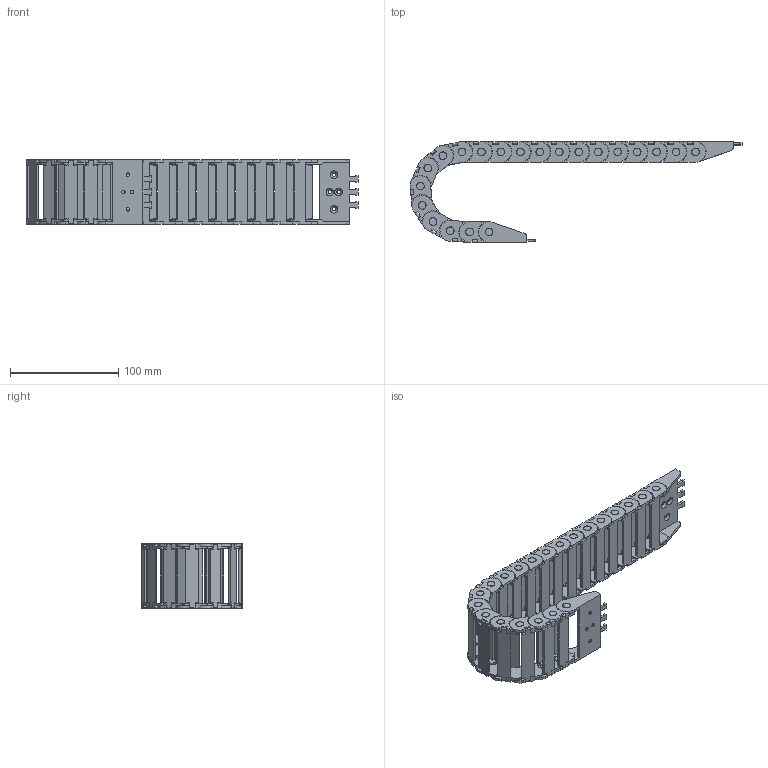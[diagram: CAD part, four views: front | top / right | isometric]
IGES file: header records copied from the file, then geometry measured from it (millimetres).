
Global section: file name: No Iges File Name specified; native system: Autodesk Inventor 2012; preprocessor: AutoDesk Inventor Iges Exporter R2012; author: cho; date: 20151015.235507; units: millimetre
Bounding box: 307.06 x 93.03 x 60.4 mm (x, y, z)
Volume: 118424.9 mm3; surface area: 126865.5 mm2
Topology: 42 solids, 42 shells, 1654 faces, 4586 edges, 3058 vertices
Faces by surface type: plane 1164, cylinder 330, revolution 160
Full cylindrical faces by diameter (mm): 7 x40, 7.2 x2
